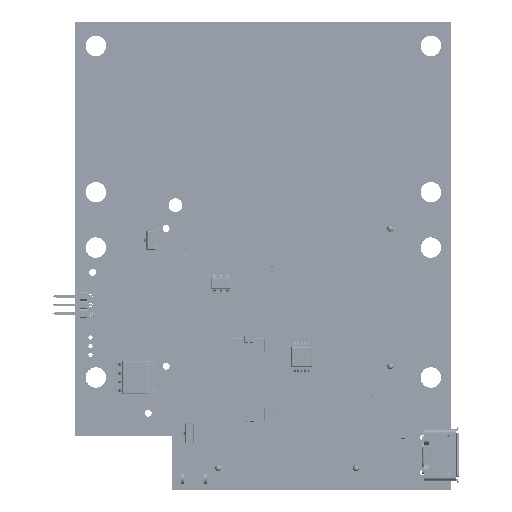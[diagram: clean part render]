
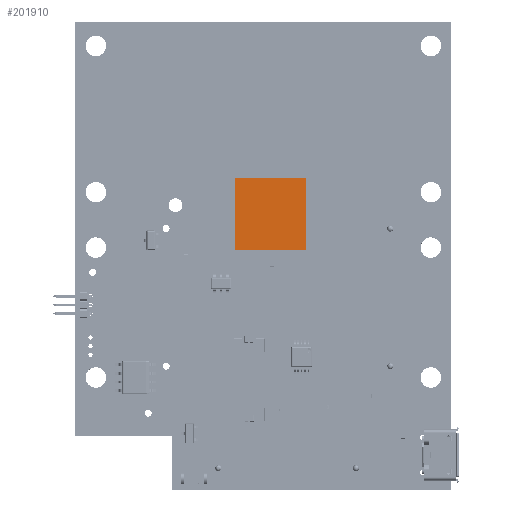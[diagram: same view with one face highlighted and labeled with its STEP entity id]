
A CAD part, top view. The second image highlights one B-rep face of the part: STEP entity #201910.
In plain terms, the highlighted planar face has unit normal (0, 0, 1) as drawn and (0, 1, 0) by its records, which use the part's own axes.
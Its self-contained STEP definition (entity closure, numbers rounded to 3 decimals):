
#201820 = VERTEX_POINT('',#201821);
#201821 = CARTESIAN_POINT('',(-5.2,0.15,-5.2));
#201827 = EDGE_CURVE('',#201820,#201828,#201830,.T.);
#201828 = VERTEX_POINT('',#201829);
#201829 = CARTESIAN_POINT('',(-5.2,0.15,5.2));
#201830 = LINE('',#201831,#201832);
#201831 = CARTESIAN_POINT('',(-5.2,0.15,-5.2));
#201832 = VECTOR('',#201833,1.);
#201833 = DIRECTION('',(0.,0.,1.));
#201851 = VERTEX_POINT('',#201852);
#201852 = CARTESIAN_POINT('',(5.2,0.15,-5.2));
#201858 = EDGE_CURVE('',#201851,#201820,#201859,.T.);
#201859 = LINE('',#201860,#201861);
#201860 = CARTESIAN_POINT('',(5.2,0.15,-5.2));
#201861 = VECTOR('',#201862,1.);
#201862 = DIRECTION('',(-1.,0.,0.));
#201875 = VERTEX_POINT('',#201876);
#201876 = CARTESIAN_POINT('',(5.2,0.15,5.2));
#201882 = EDGE_CURVE('',#201875,#201851,#201883,.T.);
#201883 = LINE('',#201884,#201885);
#201884 = CARTESIAN_POINT('',(5.2,0.15,5.2));
#201885 = VECTOR('',#201886,1.);
#201886 = DIRECTION('',(0.,0.,-1.));
#201899 = EDGE_CURVE('',#201828,#201875,#201900,.T.);
#201900 = LINE('',#201901,#201902);
#201901 = CARTESIAN_POINT('',(-5.2,0.15,5.2));
#201902 = VECTOR('',#201903,1.);
#201903 = DIRECTION('',(1.,0.,0.));
#201910 = ADVANCED_FACE('',(#201911),#201917,.T.);
#201911 = FACE_BOUND('',#201912,.F.);
#201912 = EDGE_LOOP('',(#201913,#201914,#201915,#201916));
#201913 = ORIENTED_EDGE('',*,*,#201827,.F.);
#201914 = ORIENTED_EDGE('',*,*,#201858,.F.);
#201915 = ORIENTED_EDGE('',*,*,#201882,.F.);
#201916 = ORIENTED_EDGE('',*,*,#201899,.F.);
#201917 = PLANE('',#201918);
#201918 = AXIS2_PLACEMENT_3D('',#201919,#201920,#201921);
#201919 = CARTESIAN_POINT('',(0.,0.15,0.));
#201920 = DIRECTION('',(0.,1.,0.));
#201921 = DIRECTION('',(1.,0.,0.));
